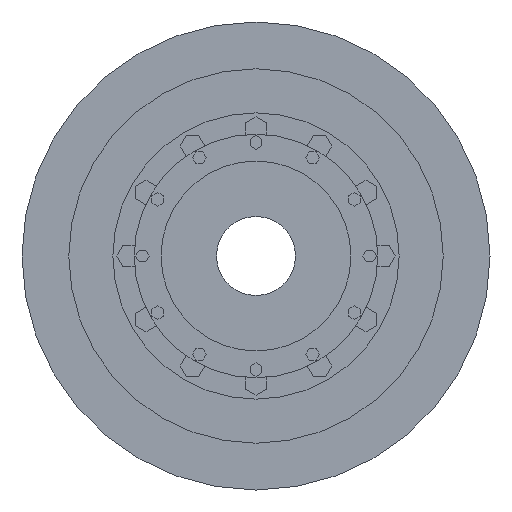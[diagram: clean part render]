
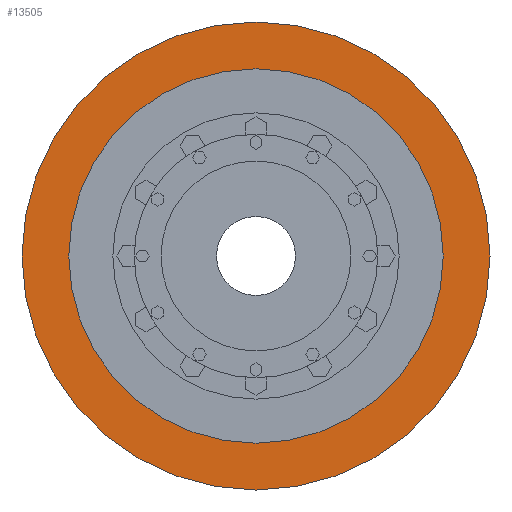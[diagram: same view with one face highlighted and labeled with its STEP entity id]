
A CAD part, left-side view. The second image highlights one B-rep face of the part: STEP entity #13505.
In plain terms, the highlighted planar face has unit normal (-1, 0, 0).
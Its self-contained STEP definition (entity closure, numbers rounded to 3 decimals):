
#13302=CARTESIAN_POINT('',(-6.35,0.,0.));
#13303=DIRECTION('',(-1.,0.,0.));
#13304=DIRECTION('',(0.,1.,0.));
#13305=AXIS2_PLACEMENT_3D('',#13302,#13303,#13304);
#13307=CARTESIAN_POINT('',(-6.35,0.,0.));
#13308=DIRECTION('',(1.,0.,0.));
#13309=DIRECTION('',(0.,1.,0.));
#13310=AXIS2_PLACEMENT_3D('',#13307,#13308,#13309);
#13312=CARTESIAN_POINT('',(-6.35,0.,0.));
#13313=DIRECTION('',(1.,0.,0.));
#13314=DIRECTION('',(0.,1.,0.));
#13315=AXIS2_PLACEMENT_3D('',#13312,#13313,#13314);
#13325=CARTESIAN_POINT('',(-6.35,0.,0.));
#13326=DIRECTION('',(-1.,0.,0.));
#13327=DIRECTION('',(0.,1.,0.));
#13328=AXIS2_PLACEMENT_3D('',#13325,#13326,#13327);
#13348=CARTESIAN_POINT('',(-6.35,284.4,0.));
#13350=VERTEX_POINT('',#13348);
#13360=CARTESIAN_POINT('',(-6.35,-284.4,0.));
#13362=VERTEX_POINT('',#13360);
#13365=CARTESIAN_POINT('',(-6.35,355.5,0.));
#13367=VERTEX_POINT('',#13365);
#13369=CARTESIAN_POINT('',(-6.35,-355.5,0.));
#13371=VERTEX_POINT('',#13369);
#13490=CARTESIAN_POINT('',(-6.35,0.,0.));
#13491=DIRECTION('',(1.,0.,0.));
#13492=DIRECTION('',(0.,-1.,0.));
#13493=AXIS2_PLACEMENT_3D('',#13490,#13491,#13492);
#13494=PLANE('',#13493);
#13495=ORIENTED_EDGE('',*,*,#13483,.F.);
#13496=ORIENTED_EDGE('',*,*,#13472,.T.);
#13497=EDGE_LOOP('',(#13495,#13496));
#13498=FACE_OUTER_BOUND('',#13497,.F.);
#13500=ORIENTED_EDGE('',*,*,#13499,.F.);
#13502=ORIENTED_EDGE('',*,*,#13501,.T.);
#13503=EDGE_LOOP('',(#13500,#13502));
#13504=FACE_BOUND('',#13503,.F.);
#13505=ADVANCED_FACE('',(#13498,#13504),#13494,.F.);
#13306=CIRCLE('',#13305,355.5);
#13311=CIRCLE('',#13310,355.5);
#13316=CIRCLE('',#13315,284.4);
#13329=CIRCLE('',#13328,284.4);
#13472=EDGE_CURVE('',#13367,#13371,#13311,.T.);
#13483=EDGE_CURVE('',#13367,#13371,#13306,.T.);
#13499=EDGE_CURVE('',#13350,#13362,#13316,.T.);
#13501=EDGE_CURVE('',#13350,#13362,#13329,.T.);
